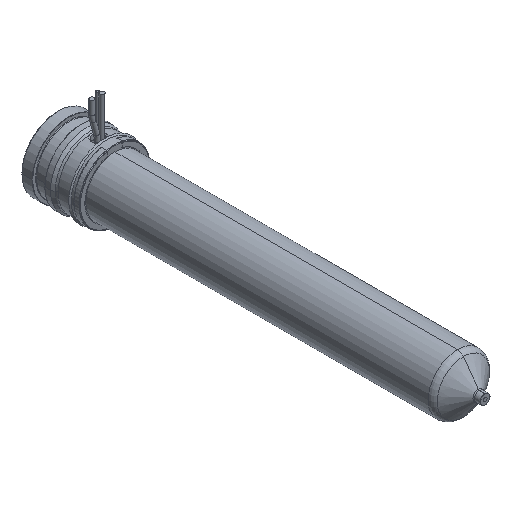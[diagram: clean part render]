
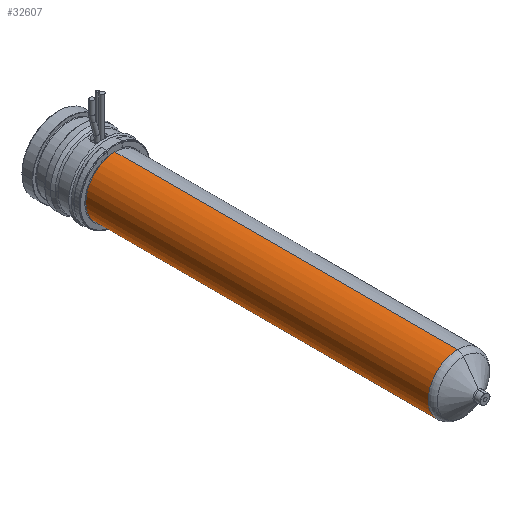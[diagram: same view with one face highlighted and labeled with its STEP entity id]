
A CAD part, isometric view. The second image highlights one B-rep face of the part: STEP entity #32607.
In plain terms, the highlighted cylindrical face has radius 12 mm (diameter 24 mm), a partial arc.
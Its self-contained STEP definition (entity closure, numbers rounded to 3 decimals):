
#32252=CARTESIAN_POINT('',(0.,-24.,0.));
#32253=DIRECTION('',(0.,1.,0.));
#32254=DIRECTION('',(0.,0.,-1.));
#32255=AXIS2_PLACEMENT_3D('',#32252,#32253,#32254);
#32260=DIRECTION('',(0.,1.,0.));
#32261=VECTOR('',#32260,140.671);
#32262=CARTESIAN_POINT('',(0.,-164.671,12.));
#32263=LINE('',#32262,#32261);
#32275=DIRECTION('',(0.,1.,0.));
#32276=VECTOR('',#32275,140.671);
#32277=CARTESIAN_POINT('',(0.,-164.671,-12.));
#32278=LINE('',#32277,#32276);
#32306=CARTESIAN_POINT('',(0.,-164.671,0.));
#32307=DIRECTION('',(0.,-1.,0.));
#32308=DIRECTION('',(0.,0.,1.));
#32309=AXIS2_PLACEMENT_3D('',#32306,#32307,#32308);
#32496=CARTESIAN_POINT('',(0.,-164.671,12.));
#32497=CARTESIAN_POINT('',(0.,-24.,12.));
#32498=VERTEX_POINT('',#32496);
#32499=VERTEX_POINT('',#32497);
#32504=CARTESIAN_POINT('',(0.,-164.671,-12.));
#32505=CARTESIAN_POINT('',(0.,-24.,-12.));
#32506=VERTEX_POINT('',#32504);
#32507=VERTEX_POINT('',#32505);
#32593=CARTESIAN_POINT('',(0.,-12.2,0.));
#32594=DIRECTION('',(0.,-1.,0.));
#32595=DIRECTION('',(0.,0.,1.));
#32596=AXIS2_PLACEMENT_3D('',#32593,#32594,#32595);
#32597=CYLINDRICAL_SURFACE('',#32596,12.);
#32599=ORIENTED_EDGE('',*,*,#32598,.F.);
#32601=ORIENTED_EDGE('',*,*,#32600,.T.);
#32603=ORIENTED_EDGE('',*,*,#32602,.T.);
#32604=ORIENTED_EDGE('',*,*,#32586,.T.);
#32605=EDGE_LOOP('',(#32599,#32601,#32603,#32604));
#32606=FACE_OUTER_BOUND('',#32605,.F.);
#32607=ADVANCED_FACE('',(#32606),#32597,.T.);
#32256=CIRCLE('',#32255,12.);
#32310=CIRCLE('',#32309,12.);
#32586=EDGE_CURVE('',#32507,#32499,#32256,.T.);
#32598=EDGE_CURVE('',#32498,#32499,#32263,.T.);
#32600=EDGE_CURVE('',#32498,#32506,#32310,.T.);
#32602=EDGE_CURVE('',#32506,#32507,#32278,.T.);
